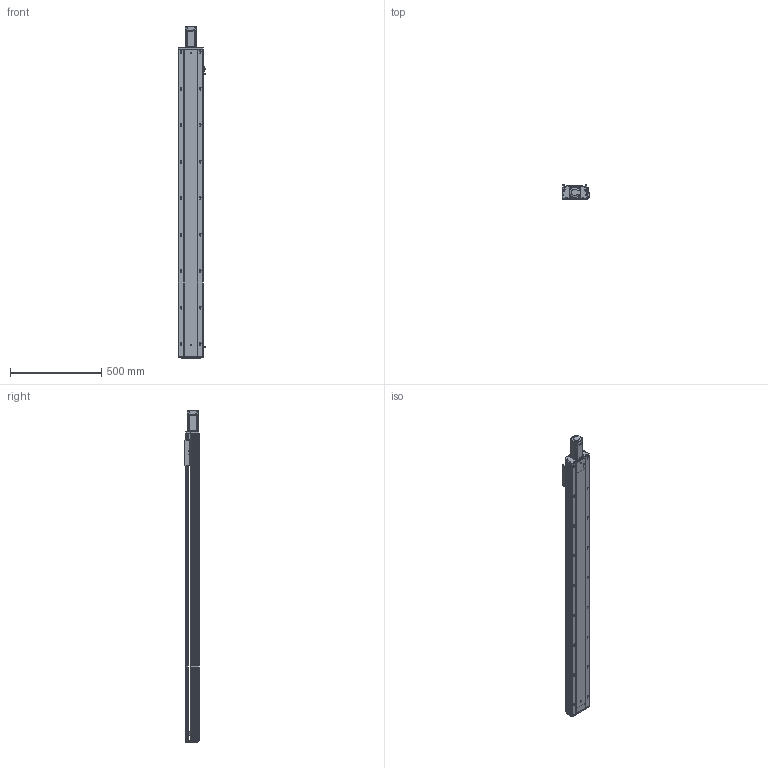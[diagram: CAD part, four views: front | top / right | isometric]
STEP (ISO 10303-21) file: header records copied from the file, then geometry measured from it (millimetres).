
FILE_DESCRIPTION (( 'STEP AP203' ), '1' );
FILE_NAME ('RY140Q-L2010-1000-MK.SLDASM_1450.step', '2021-05-27T07:35:00', ( '盈信电脑' ), ( '东莞市道滘镇水果街19号' ), 'SwSTEP 2.0', 'SolidWorks 2016', '' );
FILE_SCHEMA (( 'CONFIG_CONTROL_DESIGN' ));
Length unit declared in the file: millimetre
Products named in the file (13): 覜茼ん672; RY140綴裔啣; RY120外置感应片(140共用）; RY140Q萇儂傷盓傅釱FK12(80.5酗M5); RY140Q-1000-MK倰第菁釱_1450; 15; 滅袉蝶18-10; RY140Q-1000-MK倰第奻裔啣_1450; 滅袉蝶18-15; 侂狟400W侜督萇儂; RY140Q臏賑輸(20佪裝-J; RY140Q-L2010-1000-MK.SLDASM_1450; RY140ヶ裔啣
Assembly tree (15 placements, depth 3):
  RY140Q-L2010-1000-MK.SLDASM_1450
    RY140Q-1000-MK倰第菁釱_1450
    RY140Q臏賑輸(20佪裝-J
    RY140Q-1000-MK倰第奻裔啣_1450
    RY140ヶ裔啣
    侂狟400W侜督萇儂
      15
    RY140綴裔啣
    覜茼ん672  x3
    RY120外置感应片(140共用）
    RY140Q萇儂傷盓傅釱FK12(80.5酗M5)
    滅袉蝶18-10
    滅袉蝶18-15  x2
Bounding box: 148.7 x 78 x 1819.5 mm (x, y, z)
Volume: 4910687.9 mm3; surface area: 1844079.7 mm2
Topology: 14 solids, 14 shells, 2226 faces, 6165 edges, 3915 vertices
Faces by surface type: plane 1086, cylinder 812, cone 243, bspline 85
Entity records: 73261 total; most frequent: CARTESIAN_POINT 17490, ORIENTED_EDGE 11526, DIRECTION 11027, EDGE_CURVE 5763, VERTEX_POINT 3775, AXIS2_PLACEMENT_3D 3697, VECTOR 3633, LINE 3633
